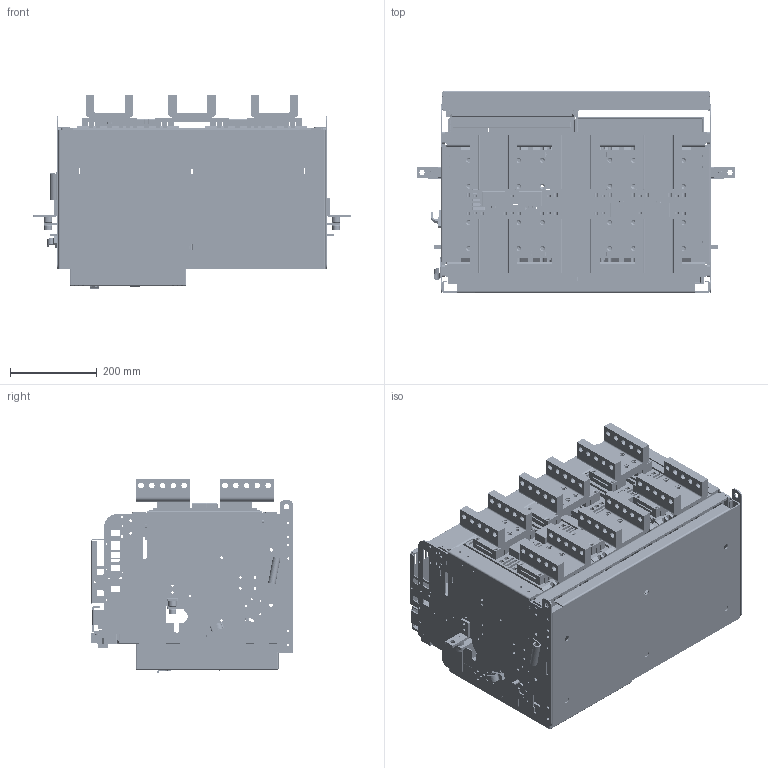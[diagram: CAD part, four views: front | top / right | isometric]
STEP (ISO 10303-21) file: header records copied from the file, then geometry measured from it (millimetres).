
FILE_DESCRIPTION((''),'2;1');
FILE_NAME('C503V_ASM_ASM','2017-01-31T',('HHI'),(''),'PRO/ENGINEER BY PARAMETRIC TECHNOLOGY CORPORATION, 2012453','PRO/ENGINEER BY PARAMETRIC TECHNOLOGY CORPORATION, 2012453','');
FILE_SCHEMA(('CONFIG_CONTROL_DESIGN'));
Products named in the file (56): MAIN_SC_DR_BASE_503_2; U_DR_FRAME_L_5; MANIFOLD_SOLID_BREP_22393; MAIN_SC-DR-FRAME_L_48_ASM; ASM_U_DR_SIDE_L_ASM_6_ASM; MANIFOLD_SOLID_BREP_43143; MANIFOLD_SOLID_BREP_43363; MAIN_SC-DR-FRAME_R_47_ASM; ASM_U_DR_SIDE_R_ASM_5_ASM; SUPPORTER_MOLD_DOWN_503_2; SUPPORTER_TERMINAL_MOLD_WELD_4; ASM_SUPPORTER_MOLD_DOWN_503_ASM_ASM; U_MAIN_TERMINAL_MOLD_503_2; HEX_NUT_M6_4; ASM_U_TERMINAL_MOLD_503_ASM_2_ASM; ISOL_TERMINAL_SPACER_4; ISOL_TERMINAL_503V_2; ISOL_TERMINAL_503S_V_2; ASM_U_MAIN_TERMINAL_MOLD_503_AS_ASM; SUPPORTER_TERMINAL_MOLD_503_2; ASM_SUPPORTER_TER_MOLD_UP_503_A_ASM; SUPPORTER_TERMINAL_MOLD_2_4; SC_CO_JACK_DFC_503_2; CHINA_CONTROL_JACK_FEMALE_4; U_GUIDE_SPACER_CONTROL_JACK_4; U_CONTROL_JACK_FIX_504_4; ASM_U_CONTROL_JACK_503_ASM_4_ASM; U_JOINT_TERMINAL_50V_2; SC_CONTROL_JACK_32; SC_MAIN_FRONT_COVER20120324_19; SC_DR_DEVICE_COVER2_32; SC_DR_LOCK_PUSH_BUTTON_32; SC_MANUAL_POSITION_LOCK_32; SC-DR-INDICATOR_SAMPLE_34; DR_COVER_SAMPLE_ASM_33_ASM; MAIN_SC-OCR-COVER-U-DD-RE_33; MAIN_SC-OCR-PROTECTION-COVER-RE; MAIN_SC-OCR-LOWER-COVER-RE_32; OCR_COVER_SAMPLE_ASM_33_ASM; SC-CLOSE-BUTTON_30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
Assembly tree (123 placements, depth 6):
  C503V_ASM_ASM
    C503V_ASM_5_ASM
      MAIN_SC_DR_BASE_503_2
      ASM_U_DR_SIDE_L_ASM_6_ASM
        U_DR_FRAME_L_5
        MAIN_SC-DR-FRAME_L_48_ASM
          MANIFOLD_SOLID_BREP_22393
      ASM_U_DR_SIDE_R_ASM_5_ASM
        MAIN_SC-DR-FRAME_R_47_ASM
          MANIFOLD_SOLID_BREP_43143
          MANIFOLD_SOLID_BREP_43363
      ASM_SUPPORTER_MOLD_DOWN_503_ASM_ASM
        SUPPORTER_MOLD_DOWN_503_2
        SUPPORTER_TERMINAL_MOLD_WELD_4  x4
      ASM_U_MAIN_TERMINAL_MOLD_503_AS_ASM
        ASM_U_TERMINAL_MOLD_503_ASM_2_ASM  x2
          U_MAIN_TERMINAL_MOLD_503_2
          HEX_NUT_M6_4
        ISOL_TERMINAL_SPACER_4  x24
        ISOL_TERMINAL_503V_2  x4
        ISOL_TERMINAL_503S_V_2  x2
      ASM_SUPPORTER_TER_MOLD_UP_503_A_ASM
        SUPPORTER_TERMINAL_MOLD_503_2
        SUPPORTER_TERMINAL_MOLD_WELD_4  x2
      SUPPORTER_TERMINAL_MOLD_2_4
      ASM_U_CONTROL_JACK_503_ASM_4_ASM
        SC_CO_JACK_DFC_503_2
        CHINA_CONTROL_JACK_FEMALE_4
        U_GUIDE_SPACER_CONTROL_JACK_4  x2
        U_CONTROL_JACK_FIX_504_4
      U_JOINT_TERMINAL_50V_2  x6
      COVER503_ASSY_ASM_3_ASM
        COVER203_ASSY_ASM_36_ASM
          SC_CONTROL_JACK_32
          SC_MAIN_FRONT_COVER20120324_19
          DR_COVER_SAMPLE_ASM_33_ASM
            SC_DR_DEVICE_COVER2_32
            SC_DR_LOCK_PUSH_BUTTON_32
            SC_MANUAL_POSITION_LOCK_32
            SC-DR-INDICATOR_SAMPLE_34
          OCR_COVER_SAMPLE_ASM_33_ASM
            MAIN_SC-OCR-COVER-U-DD-RE_33
            MAIN_SC-OCR-PROTECTION-COVER-RE
            MAIN_SC-OCR-LOWER-COVER-RE_32
          SC-CLOSE-BUTTON_30
          SC-OPEN-BUTTON_30
          N_CHARGE_HANDLE_29
        SC_ADDITIONAL_FRONT_COVER_7
      U_ARC_SHIELD_503_1
      FIX_BODY_ASM_L_ASM_4_ASM
        SC-FIX-BLOCK-L_3
        FIX_BODY_EXTRA_3
        FIX_BLOCK_CRADLE_6
        BOLT_5
      FIX_BODY_ASM_R_ASM_7_ASM
        SC-FIX-BLOCK-R_6
        SC-FIX-BLOCK-SUP-R_4
        FIX_BLOCK_CRADLE_6
        BOLT_5
Bounding box: 736 x 466.35 x 448.03 mm (x, y, z)
Volume: 10596484.4 mm3; surface area: 5271624.4 mm2
Topology: 135 solids, 135 shells, 17872 faces, 52270 edges, 34294 vertices
Faces by surface type: plane 13299, cylinder 3760, cone 369, torus 178, sphere 117, extrusion 92, bspline 57
Entity records: 483890 total; most frequent: CARTESIAN_POINT 90203, ORIENTED_EDGE 84920, DIRECTION 77279, EDGE_CURVE 42460, VECTOR 35869, LINE 35777, VERTEX_POINT 27923, AXIS2_PLACEMENT_3D 20705
